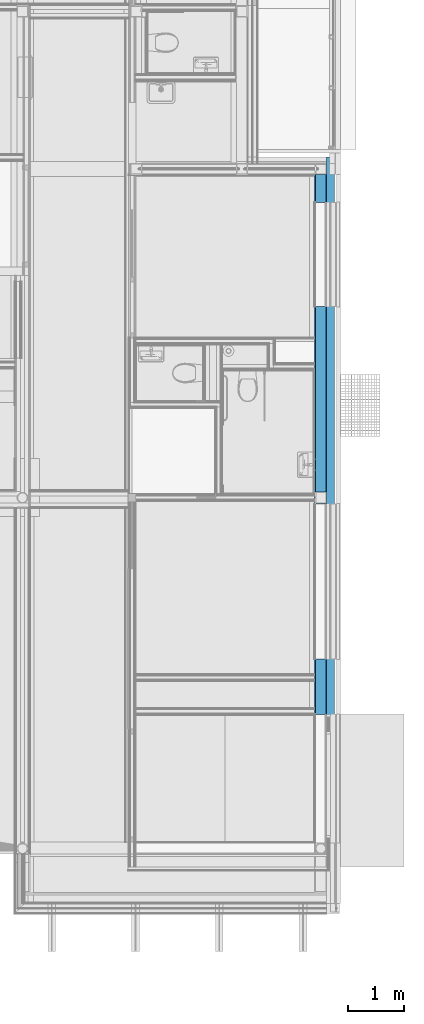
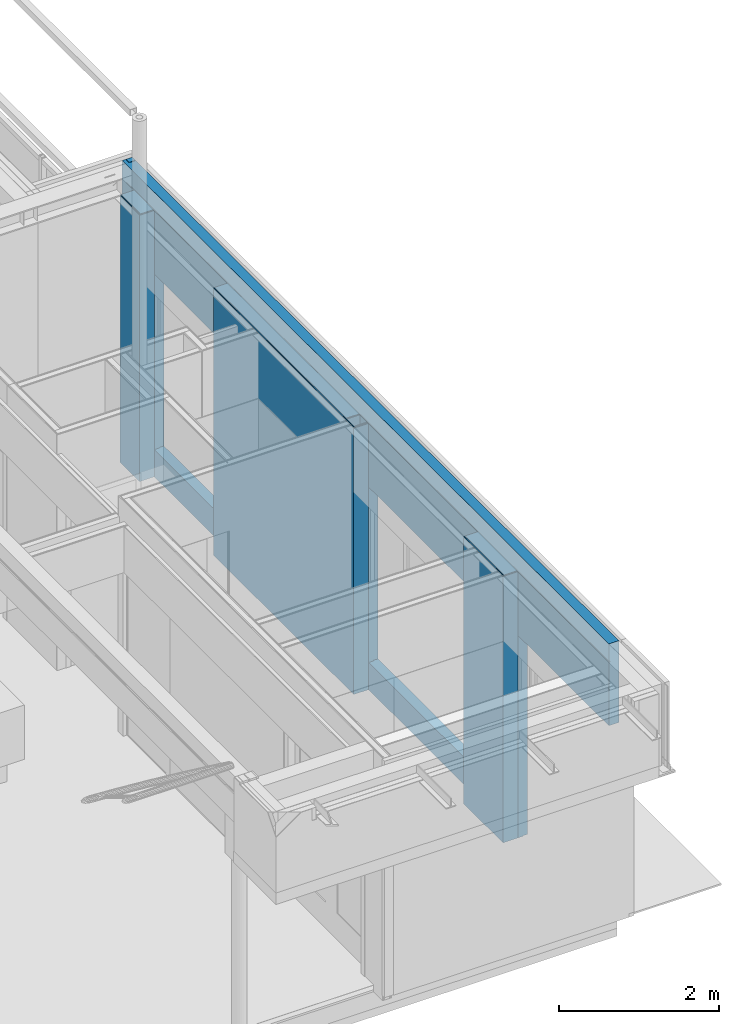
# One storey, part 72 of 165: 2 building element parts, 4 openings, 1 element without a shape of its own.
"""IFC2X3 building model written with IfcOpenShell, lengths in millimetres."""

from ifc_helpers import new_model, entity, si_unit, converted_unit, derived_unit, money_unit, direction, frame, origin_with_axes, place, context, subcontext, project, spatial, faceted_brep, material, type_object, element, aggregate, save


model = new_model("IFC2X3")

# Units and contexts
model_context = context("Model", 3, precision=0.01, world=origin_with_axes(), true_north=direction((0.0, 1.0)))
body_context = subcontext(model_context, "Body", "Model", "MODEL_VIEW")
ifc_project = project(units=[si_unit("LENGTHUNIT", "METRE", prefix="MILLI"), si_unit("AREAUNIT", "SQUARE_METRE"), si_unit("VOLUMEUNIT", "CUBIC_METRE"), converted_unit("PLANEANGLEUNIT", "DEGREE", entity("IfcPlaneAngleMeasure", 0.0174532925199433), si_unit("PLANEANGLEUNIT", "RADIAN"), dimensions=[0, 0, 0, 0, 0, 0, 0]), money_unit("EUR"), converted_unit("TIMEUNIT", "Year", entity("IfcTimeMeasure", 31556926.0), si_unit("TIMEUNIT", "SECOND"), dimensions=[0, 0, 1, 0, 0, 0, 0]), si_unit("MASSUNIT", "GRAM", prefix="KILO"), si_unit("THERMODYNAMICTEMPERATUREUNIT", "DEGREE_CELSIUS"), si_unit("LUMINOUSINTENSITYUNIT", "LUMEN"), si_unit("ENERGYUNIT", "JOULE", prefix="MEGA"), derived_unit("THERMALCONDUCTANCEUNIT", [(si_unit("POWERUNIT", "WATT"), 1), (si_unit("LENGTHUNIT", "METRE"), -1), (si_unit("THERMODYNAMICTEMPERATUREUNIT", "KELVIN"), -1)]), derived_unit("SPECIFICHEATCAPACITYUNIT", [(si_unit("ENERGYUNIT", "JOULE"), 1), (si_unit("MASSUNIT", "GRAM", prefix="KILO"), -1), (si_unit("THERMODYNAMICTEMPERATUREUNIT", "KELVIN"), -1)]), derived_unit("MASSDENSITYUNIT", [(si_unit("MASSUNIT", "GRAM", prefix="KILO"), 1), (si_unit("VOLUMEUNIT", "CUBIC_METRE"), -1)])], contexts=[model_context])

# Site, building, storey
site_placement = place(None, origin_with_axes())
site = spatial("IfcSite", under=ifc_project, at=site_placement, Name="Site", CompositionType="ELEMENT")
building_placement = place(site_placement, origin_with_axes())
building = spatial("IfcBuilding", under=site, at=building_placement, Name="Naam gebouw", CompositionType="ELEMENT")
storey_placement = place(building_placement, origin_with_axes())
storey = spatial("IfcBuildingStorey", under=building, at=storey_placement, Name="Begane grond", CompositionType="ELEMENT", Elevation=0.0)

# Wall, openings, building element parts
wall_type = type_object("IfcWallType", Name="21 Buitenwand spouwmuur 464", PredefinedType="NOTDEFINED")
wall_placement = place(storey_placement, frame((29900.0, 16749.99778166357, -485.0), z_axis=(0.0, 0.0, 1.0), x_axis=(0.0, -1.0, 0.0)))
wall = element("IfcWall", 1, at=wall_placement, inside=storey, type_object=wall_type, Name="21_Wand-x")
opening_1_placement = place(wall_placement, frame((1619.0, 0.0, 475.0), z_axis=(0.0, 0.0, 1.0), x_axis=(1.0, 0.0, 0.0)))
element("IfcOpeningElement", 2, at=opening_1_placement, cuts=wall, Name="_Merk AG", context=body_context, shape_type="Brep", body=[
    faceted_brep([(925.0000000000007, 0.0, 2620.0), (-924.999999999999, 0.0, 2620.0), (-924.999999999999, 0.0, 3620.0), (925.0000000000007, 0.0, 3620.0), (925.0000000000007, 71.99999999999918, 2620.0), (-924.999999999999, 71.99999999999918, 2620.0), (-924.999999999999, 0.0, -60.00000000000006), (-924.999999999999, 0.0, -1060.0), (-924.999999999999, -215.0000000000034, -1060.0), (-924.999999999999, -215.0000000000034, 3620.0), (925.0000000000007, -215.0000000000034, 3620.0), (925.0000000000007, 0.0, -60.00000000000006), (925.0000000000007, -215.0000000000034, -1060.0), (925.0000000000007, 0.0, -1060.0), (925.0000000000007, 71.99999999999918, -60.00000000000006), (935.0000000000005, 71.99999999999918, 2620.0), (935.0000000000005, 251.0000000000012, 2620.0), (-934.9999999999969, 251.0000000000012, 2620.0), (-934.9999999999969, 71.99999999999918, 2620.0), (-924.999999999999, 71.99999999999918, -60.00000000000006), (935.0000000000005, 71.99999999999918, -60.00000000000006), (935.0000000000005, 251.0000000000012, -60.00000000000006), (-934.9999999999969, 251.0000000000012, -60.00000000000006), (-934.9999999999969, 71.99999999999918, -60.00000000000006)], [[[0, 1, 2, 3]], [[1, 0, 4, 5]], [[1, 6, 7, 8, 9, 2]], [[3, 2, 9, 10]], [[11, 0, 3, 10, 12, 13]], [[0, 11, 14, 4]], [[5, 4, 15, 16, 17, 18]], [[6, 1, 5, 19]], [[6, 11, 13, 7]], [[7, 13, 12, 8]], [[9, 8, 12, 10]], [[11, 6, 19, 14]], [[4, 14, 20, 15]], [[15, 20, 21, 16]], [[16, 21, 22, 17]], [[23, 18, 17, 22]], [[19, 5, 18, 23]], [[14, 19, 23, 22, 21, 20]]]),
])
opening_2_placement = place(wall_placement, frame((7429.997671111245, 0.0, 475.0), z_axis=(0.0, 0.0, 1.0), x_axis=(1.0, 0.0, 0.0)))
element("IfcOpeningElement", 3, at=opening_2_placement, cuts=wall, Name="_Merk AF", context=body_context, shape_type="Brep", body=[
    faceted_brep([(1375.0, 0.0, 2620.0), (-1375.0, 0.0, 2620.0), (-1375.0, 0.0, 3620.0), (1375.0, 0.0, 3620.0), (1375.0, 72.00000000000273, 2620.0), (-1375.0, 72.00000000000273, 2620.0), (-1375.0, 0.0, -60.00000000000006), (-1375.0, 0.0, -1060.0), (-1375.0, -214.9999999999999, -1060.0), (-1375.0, -214.9999999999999, 3620.0), (1375.0, -214.9999999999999, 3620.0), (1375.0, 0.0, -60.00000000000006), (1375.0, -215.0000000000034, -1060.0), (1375.0, 0.0, -1060.0), (1375.0, 72.00000000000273, -60.00000000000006), (1385.0, 72.00000000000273, 2620.0), (1385.0, 251.0000000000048, 2620.0), (-1385.0, 251.0000000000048, 2620.0), (-1385.0, 72.00000000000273, 2620.0), (-1375.0, 72.00000000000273, -60.00000000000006), (1385.0, 72.00000000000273, -60.00000000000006), (1385.0, 251.0000000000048, -60.00000000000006), (-1385.0, 251.0000000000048, -60.00000000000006), (-1385.0, 72.00000000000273, -60.00000000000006)], [[[0, 1, 2, 3]], [[1, 0, 4, 5]], [[1, 6, 7, 8, 9, 2]], [[3, 2, 9, 10]], [[11, 0, 3, 10, 12, 13]], [[0, 11, 14, 4]], [[5, 4, 15, 16, 17, 18]], [[6, 1, 5, 19]], [[6, 11, 13, 7]], [[7, 13, 12, 8]], [[9, 8, 12, 10]], [[11, 6, 19, 14]], [[4, 14, 20, 15]], [[15, 20, 21, 16]], [[16, 21, 22, 17]], [[23, 18, 17, 22]], [[19, 5, 18, 23]], [[14, 19, 23, 22, 21, 20]]]),
])
opening_3_placement = place(wall_placement, frame((11269.99883950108, 0.0, 0.0), z_axis=(0.0, 0.0, 1.0), x_axis=(1.0, 0.0, 0.0)))
element("IfcOpeningElement", 4, at=opening_3_placement, cuts=wall, Name="_Merk AL2", context=body_context, shape_type="Brep", body=[
    faceted_brep([(-1479.998915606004, -214.9999999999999, 3054.99994255), (-1479.998915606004, 0.0, 3054.99994255), (-1479.998915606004, 251.0000000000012, 3054.99994255), (-1479.998915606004, 251.0000000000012, 0.0), (-1479.998915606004, -215.0000000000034, 0.0), (-1479.998915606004, -214.9999999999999, 4084.999953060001), (-1479.998915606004, 0.0, 4084.999953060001), (1301.998915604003, 0.0, 3054.99994255), (1301.998915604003, -214.9999999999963, 3054.99994255), (1479.998915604, -214.9999999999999, 3054.99994255), (1479.998915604, 251.0000000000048, 3054.99994255), (1479.998915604, 251.0000000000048, 0.0), (1479.998915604, -214.9999999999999, 0.0), (1301.998915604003, -214.9999999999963, 4084.999953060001), (1301.998915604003, 0.0, 4084.999953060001)], [[[0, 1, 2, 3, 4]], [[1, 0, 5, 6]], [[7, 8, 9, 10, 2, 1]], [[3, 2, 10, 11]], [[12, 4, 3, 11]], [[8, 0, 4, 12, 9]], [[0, 8, 13, 5]], [[14, 6, 5, 13]], [[7, 1, 6, 14]], [[8, 7, 14, 13]], [[9, 12, 11, 10]]]),
])
opening_4_placement = place(wall_placement, frame((10804.99885278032, 0.0, 0.0), z_axis=(0.0, 0.0, 1.0), x_axis=(1.0, 0.0, 0.0)))
element("IfcOpeningElement", 5, at=opening_4_placement, cuts=wall, Name="_-", context=body_context, shape_type="Brep", body=[
    faceted_brep([(1264.998928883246, 0.0, 3095.0), (-1014.998928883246, 0.0, 3095.0), (-1014.998928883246, 0.0, 4095.0), (1264.998928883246, 0.0, 4095.0), (1264.998928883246, 71.99999999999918, 3095.0), (-1014.998928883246, 71.99999999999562, 3095.0), (-1014.998928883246, 0.0, 0.0), (-1014.998928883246, -215.0000000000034, 0.0), (-1014.998928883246, -215.0000000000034, 4095.0), (1264.998928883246, -214.9999999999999, 4095.0), (1264.998928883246, 0.0, 0.0), (1264.998928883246, -214.9999999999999, 0.0), (1264.998928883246, 71.99999999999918, 0.0), (1264.998928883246, 251.0000000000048, 3095.0), (-1024.998928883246, 251.0000000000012, 3095.0), (-1024.998928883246, 71.99999999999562, 3095.0), (-1014.998928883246, 71.99999999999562, 0.0), (1264.998928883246, 251.0000000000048, 0.0), (-1024.998928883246, 251.0000000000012, 0.0), (-1024.998928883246, 71.99999999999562, 0.0)], [[[0, 1, 2, 3]], [[1, 0, 4, 5]], [[1, 6, 7, 8, 2]], [[3, 2, 8, 9]], [[10, 0, 3, 9, 11]], [[0, 10, 12, 4]], [[5, 4, 13, 14, 15]], [[6, 1, 5, 16]], [[10, 11, 7, 6, 16, 12]], [[8, 7, 11, 9]], [[4, 12, 17, 13]], [[13, 17, 18, 14]], [[19, 15, 14, 18]], [[16, 5, 15, 19]], [[12, 16, 19, 18, 17]]]),
])
ifc_material_1 = material(Name="Isolatie - Steenwol zacht")
building_element_part_1_placement = place(wall_placement, origin_with_axes())
building_element_part_1 = element("IfcBuildingElementPart", 6, at=building_element_part_1_placement, material=ifc_material_1, Name="Isolatie - Steenwol zacht", context=body_context, shape_type="Brep", body=[
    faceted_brep([(12069.99778166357, 71.99999999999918, 3095.0), (9789.999923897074, 71.99999999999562, 3095.0), (9779.999923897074, 71.99999999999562, 3095.0), (9779.999923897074, 144.9999999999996, 3095.0), (12069.99778166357, 145.0000000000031, 3095.0), (12069.99778166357, 0.0, 3095.0), (9789.999923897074, 0.0, 3095.0), (9789.999923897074, 71.99999999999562, 3054.999942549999), (9789.99992389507, 71.99999999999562, 0.0), (9779.999923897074, 71.99999999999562, 0.0), (9779.999923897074, 144.9999999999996, 0.0), (-25.00206540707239, 144.9999999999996, 4345.0), (12069.99778166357, 145.0000000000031, 4345.0), (-109.9999999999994, 144.9999999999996, 0.0), (-109.9999999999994, 144.9999999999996, 3225.000013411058), (200.0000000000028, 144.9999999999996, 3225.000013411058), (200.0000000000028, 144.9999999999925, 3230.000013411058), (-109.9999999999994, 144.9999999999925, 3230.000013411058), (-109.9999999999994, 144.9999999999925, 3320.000013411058), (200.0000000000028, 144.9999999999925, 3320.000013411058), (200.0000000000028, 144.9999999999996, 3325.000013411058), (-25.00206540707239, 144.9999999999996, 3325.000013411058), (684.000000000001, 144.9999999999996, 3095.0), (684.000000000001, 144.9999999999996, 414.9999999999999), (2553.999999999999, 144.9999999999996, 414.9999999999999), (2553.999999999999, 144.9999999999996, 3095.0), (8814.997671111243, 144.9999999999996, 414.9999999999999), (8814.997671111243, 144.9999999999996, 3095.0), (6044.997671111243, 144.9999999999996, 3095.0), (6044.997671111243, 144.9999999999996, 414.9999999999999), (12069.99778166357, 1.000000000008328, 4345.0), (12069.99778166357, 1.000000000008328, 4080.0), (12069.99778166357, 16.0000000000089, 4080.0), (12069.99778166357, 16.0000000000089, 4068.0), (12069.99778166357, 0.0, 4068.0), (0.0, 0.0, 4068.0), (0.0, 0.0, 4345.0), (-109.9999999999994, 0.0, 4345.0), (-109.9999999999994, 0.0, 0.0), (9789.99992389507, 0.0, 0.0), (9789.999923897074, 0.0, 3054.999942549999), (693.9999999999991, 0.0, 414.9999999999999), (693.9999999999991, 0.0, 3095.0), (2543.999999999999, 0.0, 3095.0), (2543.999999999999, 0.0, 414.9999999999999), (8804.997671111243, 0.0, 3095.0), (8804.997671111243, 0.0, 414.9999999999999), (6054.997671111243, 0.0, 414.9999999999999), (6054.997671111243, 0.0, 3095.0), (0.0, 1.000000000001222, 4345.0), (-25.00206540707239, 49.99999999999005, 4345.0), (-109.9999999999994, 49.99999999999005, 4345.0), (-109.9999999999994, 49.99999999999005, 3225.000013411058), (200.0000000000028, 49.99999999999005, 3225.000013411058), (200.0000000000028, 54.99999999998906, 3320.000013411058), (200.0000000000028, 54.99999999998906, 3230.000013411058), (200.0000000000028, 49.99999999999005, 3325.000013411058), (-109.9999999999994, 54.99999999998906, 3230.000013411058), (-109.9999999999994, 54.99999999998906, 3320.000013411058), (-25.00206540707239, 49.99999999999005, 3325.000013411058), (684.000000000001, 71.99999999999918, 3095.0), (684.000000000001, 71.99999999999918, 414.9999999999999), (693.9999999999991, 71.99999999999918, 414.9999999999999), (2543.999999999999, 71.99999999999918, 414.9999999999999), (2553.999999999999, 71.99999999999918, 414.9999999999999), (2553.999999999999, 71.99999999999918, 3095.0), (2543.999999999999, 71.99999999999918, 3095.0), (693.9999999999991, 71.99999999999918, 3095.0), (8814.997671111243, 71.99999999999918, 414.9999999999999), (8814.997671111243, 71.99999999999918, 3095.0), (8804.997671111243, 71.99999999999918, 3095.0), (6054.997671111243, 71.99999999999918, 3095.0), (6044.997671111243, 71.99999999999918, 3095.0), (6044.997671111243, 71.99999999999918, 414.9999999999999), (6054.997671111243, 71.99999999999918, 414.9999999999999), (8804.997671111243, 71.99999999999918, 414.9999999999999), (0.0, 1.000000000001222, 4080.0), (0.0, 16.00000000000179, 4080.0), (0.0, 16.00000000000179, 4068.0)], [[[0, 1, 2, 3, 4]], [[1, 0, 5, 6]], [[1, 7, 8, 9, 2]], [[3, 2, 9, 10]], [[11, 12, 4, 3, 10, 13, 14, 15, 16, 17, 18, 19, 20, 21], [22, 23, 24, 25], [26, 27, 28, 29]], [[5, 0, 4, 12, 30, 31, 32, 33, 34]], [[6, 5, 34, 35, 36, 37, 38, 39, 40], [41, 42, 43, 44], [45, 46, 47, 48]], [[7, 1, 6, 40]], [[7, 40, 39, 8]], [[38, 13, 10, 9, 8, 39]], [[36, 49, 30, 12, 11, 50, 51, 37]], [[13, 38, 37, 51, 52, 14]], [[52, 53, 15, 14]], [[54, 55, 16, 15, 53, 56, 20, 19]], [[16, 55, 57, 17]], [[17, 57, 58, 18]], [[58, 54, 19, 18]], [[56, 59, 21, 20]], [[59, 50, 11, 21]], [[60, 61, 23, 22]], [[24, 23, 61, 62, 63, 64]], [[64, 65, 25, 24]], [[22, 25, 65, 66, 67, 60]], [[27, 26, 68, 69]], [[28, 27, 69, 70, 71, 72]], [[29, 28, 72, 73]], [[26, 29, 73, 74, 75, 68]], [[76, 31, 30, 49]], [[76, 77, 32, 31]], [[77, 78, 33, 32]], [[78, 35, 34, 33]], [[35, 78, 77, 76, 49, 36]], [[67, 42, 41, 62]], [[66, 43, 42, 67]], [[63, 44, 43, 66]], [[62, 41, 44, 63]], [[45, 70, 75, 46]], [[46, 75, 74, 47]], [[47, 74, 71, 48]], [[48, 71, 70, 45]], [[56, 53, 52, 51, 50, 59]], [[55, 54, 58, 57]], [[62, 61, 60, 67]], [[66, 65, 64, 63]], [[68, 75, 70, 69]], [[72, 71, 74, 73]]]),
    faceted_brep([(-109.9999999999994, 54.99999999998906, 4345.0), (-30.0020654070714, 54.99999999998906, 4345.0), (-30.0020654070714, 144.9999999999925, 4345.0), (-109.9999999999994, 144.9999999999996, 4345.0), (-109.9999999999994, 54.99999999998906, 3325.000013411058), (-30.0020654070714, 54.99999999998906, 3325.000013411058), (-30.0020654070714, 144.9999999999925, 3325.000013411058), (-109.9999999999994, 144.9999999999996, 3325.000013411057)], [[[0, 1, 2, 3]], [[1, 0, 4, 5]], [[6, 2, 1, 5]], [[2, 6, 7, 3]], [[4, 0, 3, 7]], [[5, 4, 7, 6]]]),
])
ifc_material_2 = material(Name="Steen - Kalkzandsteen C")
building_element_part_2_placement = place(wall_placement, origin_with_axes())
building_element_part_2 = element("IfcBuildingElementPart", 7, at=building_element_part_2_placement, material=ifc_material_2, Name="Steen - Kalkzandsteen C", context=body_context, shape_type="Brep", body=[
    faceted_brep([(9789.99992389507, -214.0000000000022, 4068.0), (9789.99992389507, 0.0, 4068.0), (8804.997671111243, 0.0, 4068.0), (8804.997671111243, -214.0000000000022, 4068.0), (9789.99992389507, 0.0, 3054.99994255), (9789.99992389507, -214.0000000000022, 3054.99994255), (9789.99992389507, -214.0000000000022, 0.0), (9789.99992389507, 0.0, 0.0), (8804.997671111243, 0.0, 0.0), (8804.997671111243, -214.0000000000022, 0.0)], [[[0, 1, 2, 3]], [[4, 1, 0, 5, 6, 7]], [[1, 4, 7, 8, 2]], [[8, 9, 3, 2]], [[5, 0, 3, 9, 6]], [[6, 9, 8, 7]]]),
    faceted_brep([(5839.997671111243, -200.0000000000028, 4068.0), (5839.997671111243, 0.0, 4068.0), (2543.999999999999, 0.0, 4068.0), (2543.999999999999, -213.9999999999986, 4068.0), (6054.997671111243, -213.9999999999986, 4068.0), (6054.997671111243, 0.0, 4068.0), (6039.997671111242, 0.0, 4068.0), (6039.997671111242, -200.0000000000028, 4068.0), (5839.997671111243, -200.0000000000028, 5.000000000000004), (5839.997671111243, 0.0, 5.000000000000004), (6039.997671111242, 0.0, 5.000000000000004), (6054.997671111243, 0.0, 0.0), (2543.999999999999, 0.0, 0.0), (2543.999999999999, -213.9999999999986, 0.0), (6054.997671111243, -213.9999999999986, 0.0), (6039.997671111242, -200.0000000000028, 5.000000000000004)], [[[0, 1, 2, 3, 4, 5, 6, 7]], [[0, 8, 9, 1]], [[1, 9, 10, 6, 5, 11, 12, 2]], [[2, 12, 13, 3]], [[14, 4, 3, 13]], [[11, 5, 4, 14]], [[10, 15, 7, 6]], [[15, 8, 0, 7]], [[8, 15, 10, 9]], [[11, 14, 13, 12]]]),
    faceted_brep([(202.0000000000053, 0.0, 4068.0), (202.0000000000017, -213.9999999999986, 4068.0), (693.9999999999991, -213.9999999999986, 4068.0), (693.9999999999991, 0.0, 4068.0), (202.0000000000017, 0.0, 0.0), (202.0000000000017, -213.9999999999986, 0.0), (693.9999999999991, -213.9999999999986, 0.0), (693.9999999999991, 0.0, 0.0)], [[[0, 1, 2, 3]], [[4, 5, 1, 0]], [[1, 5, 6, 2]], [[2, 6, 7, 3]], [[4, 0, 3, 7]], [[5, 4, 7, 6]]]),
    faceted_brep([(6039.997671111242, -4.999999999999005, 4084.999999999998), (6039.997671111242, -194.9999999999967, 4084.999999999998), (6054.997671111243, -194.9999999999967, 4084.999999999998), (6054.997671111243, -4.999999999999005, 4084.999999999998), (6039.997671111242, -194.9999999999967, 4080.0), (6039.997671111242, -4.999999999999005, 4080.0), (6054.997671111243, -194.9999999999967, 4080.0), (6054.997671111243, -4.999999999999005, 4080.0)], [[[0, 1, 2, 3]], [[4, 1, 0, 5]], [[1, 4, 6, 2]], [[2, 6, 7, 3]], [[5, 0, 3, 7]], [[4, 5, 7, 6]]]),
    faceted_brep([(9789.99992389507, -194.9999999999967, 4084.999953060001), (9789.99992389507, -4.999999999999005, 4084.999953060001), (8804.997671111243, -4.999999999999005, 4084.999999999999), (8804.997671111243, -194.9999999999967, 4084.999999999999), (9789.99992389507, -4.999999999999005, 4080.0), (9789.99992389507, -194.9999999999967, 4080.0), (8804.997671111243, -4.999999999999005, 4080.0), (8804.997671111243, -194.9999999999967, 4080.0)], [[[0, 1, 2, 3]], [[4, 1, 0, 5]], [[1, 4, 6, 2]], [[2, 6, 7, 3]], [[5, 0, 3, 7]], [[4, 5, 7, 6]]]),
    faceted_brep([(2543.999999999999, -4.999999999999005, 4080.0), (2543.999999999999, -4.999999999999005, 4084.999999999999), (5839.997671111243, -4.999999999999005, 4084.999999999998), (5839.997671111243, -4.999999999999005, 4080.0), (2543.999999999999, -194.9999999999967, 4084.999999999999), (2543.999999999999, -194.9999999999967, 4080.0), (5839.997671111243, -194.9999999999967, 4084.999999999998), (5839.997671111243, -194.9999999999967, 4080.0)], [[[0, 1, 2, 3]], [[4, 1, 0, 5]], [[1, 4, 6, 2]], [[2, 6, 7, 3]], [[5, 0, 3, 7]], [[4, 5, 7, 6]]]),
    faceted_brep([(693.9999999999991, -194.9999999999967, 4085.0), (693.9999999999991, -4.999999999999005, 4085.0), (202.0000000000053, -4.999999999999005, 4085.0), (202.0000000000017, -194.9999999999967, 4085.0), (693.9999999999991, -4.999999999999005, 4080.0), (693.9999999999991, -194.9999999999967, 4080.0), (202.0000000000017, -4.999999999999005, 4080.0), (202.0000000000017, -194.9999999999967, 4080.0)], [[[0, 1, 2, 3]], [[4, 1, 0, 5]], [[1, 4, 6, 2]], [[7, 3, 2, 6]], [[5, 0, 3, 7]], [[4, 5, 7, 6]]]),
    faceted_brep([(2543.999999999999, -200.999999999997, 4085.0), (2543.999999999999, -213.9999999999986, 4085.0), (6054.997671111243, -213.9999999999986, 4085.0), (6054.997671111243, -200.999999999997, 4085.0), (2543.999999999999, -213.9999999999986, 4080.0), (2543.999999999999, -200.999999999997, 4080.0), (6054.997671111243, -213.9999999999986, 4080.0), (6054.997671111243, -200.999999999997, 4080.0)], [[[0, 1, 2, 3]], [[4, 1, 0, 5]], [[1, 4, 6, 2]], [[2, 6, 7, 3]], [[5, 0, 3, 7]], [[4, 5, 7, 6]]]),
    faceted_brep([(693.9999999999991, -213.9999999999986, 4085.0), (693.9999999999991, -200.999999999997, 4085.0), (202.0000000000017, -200.999999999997, 4085.0), (202.0000000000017, -213.9999999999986, 4085.0), (693.9999999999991, -200.999999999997, 4080.0), (693.9999999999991, -213.9999999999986, 4080.0), (202.0000000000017, -200.999999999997, 4080.0), (202.0000000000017, -213.9999999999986, 4080.0)], [[[0, 1, 2, 3]], [[4, 1, 0, 5]], [[1, 4, 6, 2]], [[7, 3, 2, 6]], [[5, 0, 3, 7]], [[4, 5, 7, 6]]]),
    faceted_brep([(9789.99992389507, -214.0000000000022, 4084.999953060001), (9789.99992389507, -200.999999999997, 4084.999953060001), (8804.997671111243, -200.999999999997, 4085.0), (8804.997671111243, -214.0000000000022, 4085.0), (9789.99992389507, -200.999999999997, 4080.0), (9789.99992389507, -214.0000000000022, 4079.999999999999), (8804.997671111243, -200.999999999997, 4080.0), (8804.997671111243, -214.0000000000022, 4079.999999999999)], [[[0, 1, 2, 3]], [[4, 1, 0, 5]], [[1, 4, 6, 2]], [[2, 6, 7, 3]], [[5, 0, 3, 7]], [[4, 5, 7, 6]]]),
])
aggregate(wall, [building_element_part_1, building_element_part_2])

save(model, "model.ifc")
